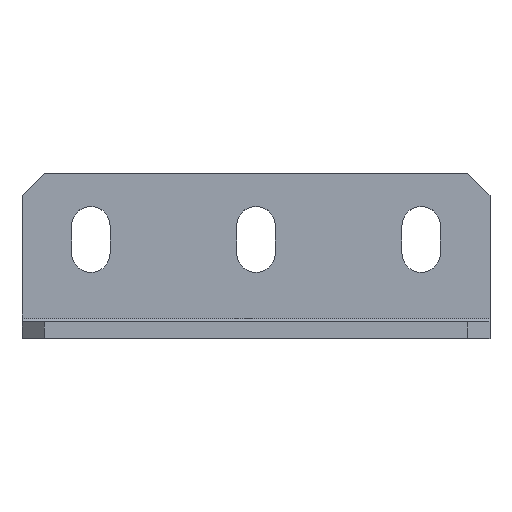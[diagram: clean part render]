
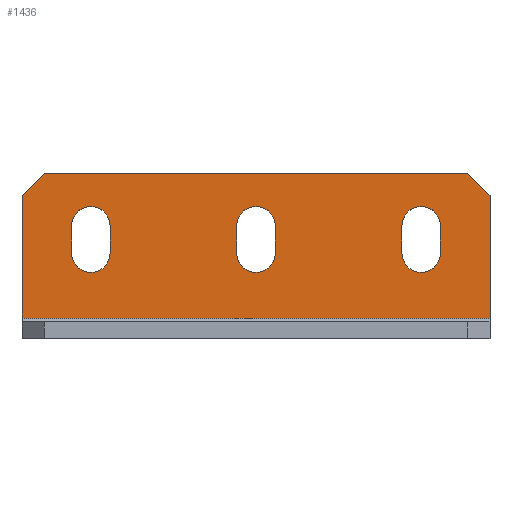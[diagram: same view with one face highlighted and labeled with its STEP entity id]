
A CAD part, top view. The second image highlights one B-rep face of the part: STEP entity #1436.
In plain terms, the highlighted planar face has unit normal (0, 0, 1).
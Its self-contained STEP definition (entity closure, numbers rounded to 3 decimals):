
#1 = DIRECTION ( 'NONE',  ( 0., 0., 1. ) ) ;
#6 = CARTESIAN_POINT ( 'NONE',  ( 30., 15.5, 3. ) ) ;
#15 = AXIS2_PLACEMENT_3D ( 'NONE', #1218, #636, #1162 ) ;
#34 = AXIS2_PLACEMENT_3D ( 'NONE', #6, #1, #465 ) ;
#61 = DIRECTION ( 'NONE',  ( -1., 0., 0. ) ) ;
#63 = ORIENTED_EDGE ( 'NONE', *, *, #758, .T. ) ;
#78 = AXIS2_PLACEMENT_3D ( 'NONE', #1311, #1075, #1095 ) ;
#80 = VERTEX_POINT ( 'NONE', #1374 ) ;
#93 = EDGE_CURVE ( 'NONE', #1184, #173, #1393, .T. ) ;
#97 = VERTEX_POINT ( 'NONE', #1271 ) ;
#101 = FACE_BOUND ( 'NONE', #372, .T. ) ;
#105 = ORIENTED_EDGE ( 'NONE', *, *, #1461, .F. ) ;
#140 = CARTESIAN_POINT ( 'NONE',  ( -42.5, 3.737, 3. ) ) ;
#141 = AXIS2_PLACEMENT_3D ( 'NONE', #657, #592, #644 ) ;
#163 = VERTEX_POINT ( 'NONE', #1292 ) ;
#164 = CARTESIAN_POINT ( 'NONE',  ( 26.5, 15.5, 3. ) ) ;
#173 = VERTEX_POINT ( 'NONE', #1231 ) ;
#178 = ORIENTED_EDGE ( 'NONE', *, *, #727, .F. ) ;
#188 = VERTEX_POINT ( 'NONE', #1175 ) ;
#217 = CARTESIAN_POINT ( 'NONE',  ( -33.5, 15.5, 3. ) ) ;
#221 = VERTEX_POINT ( 'NONE', #551 ) ;
#242 = CARTESIAN_POINT ( 'NONE',  ( 3.5, 15.5, 3. ) ) ;
#260 = EDGE_LOOP ( 'NONE', ( #178, #266, #1364, #844 ) ) ;
#265 = EDGE_CURVE ( 'NONE', #97, #1460, #1171, .T. ) ;
#266 = ORIENTED_EDGE ( 'NONE', *, *, #1506, .F. ) ;
#272 = DIRECTION ( 'NONE',  ( 0., -1., 0. ) ) ;
#273 = VERTEX_POINT ( 'NONE', #164 ) ;
#323 = DIRECTION ( 'NONE',  ( 0., -1., 0. ) ) ;
#333 = VERTEX_POINT ( 'NONE', #717 ) ;
#356 = EDGE_CURVE ( 'NONE', #947, #221, #1155, .T. ) ;
#361 = FACE_BOUND ( 'NONE', #383, .T. ) ;
#372 = EDGE_LOOP ( 'NONE', ( #643, #435, #105, #737 ) ) ;
#380 = CIRCLE ( 'NONE', #15, 3.5 ) ;
#383 = EDGE_LOOP ( 'NONE', ( #903, #474, #1026, #503 ) ) ;
#384 = FACE_BOUND ( 'NONE', #260, .T. ) ;
#388 = CARTESIAN_POINT ( 'NONE',  ( 33.5, 15.5, 3. ) ) ;
#391 = CARTESIAN_POINT ( 'NONE',  ( 26.5, 15.5, 3. ) ) ;
#404 = EDGE_CURVE ( 'NONE', #1399, #919, #1031, .T. ) ;
#409 = EDGE_LOOP ( 'NONE', ( #1498, #63, #1400, #921, #1386, #1427 ) ) ;
#429 = VECTOR ( 'NONE', #1102, 1000. ) ;
#435 = ORIENTED_EDGE ( 'NONE', *, *, #356, .F. ) ;
#465 = DIRECTION ( 'NONE',  ( 1., 0., 0. ) ) ;
#468 = LINE ( 'NONE', #1061, #429 ) ;
#474 = ORIENTED_EDGE ( 'NONE', *, *, #1485, .F. ) ;
#478 = EDGE_CURVE ( 'NONE', #173, #163, #1182, .T. ) ;
#483 = CARTESIAN_POINT ( 'NONE',  ( -3.5, 15.5, 3. ) ) ;
#503 = ORIENTED_EDGE ( 'NONE', *, *, #478, .F. ) ;
#504 = VECTOR ( 'NONE', #61, 1000. ) ;
#517 = EDGE_CURVE ( 'NONE', #221, #97, #1021, .T. ) ;
#523 = VERTEX_POINT ( 'NONE', #1191 ) ;
#524 = CARTESIAN_POINT ( 'NONE',  ( -42.5, 26., 3. ) ) ;
#535 = LINE ( 'NONE', #712, #707 ) ;
#551 = CARTESIAN_POINT ( 'NONE',  ( 3.5, 15.5, 3. ) ) ;
#563 = FACE_OUTER_BOUND ( 'NONE', #409, .T. ) ;
#565 = CIRCLE ( 'NONE', #34, 3.5 ) ;
#569 = DIRECTION ( 'NONE',  ( 0., -1., 0. ) ) ;
#575 = CARTESIAN_POINT ( 'NONE',  ( 42.5, 30., 3. ) ) ;
#592 = DIRECTION ( 'NONE',  ( 0., 0., 1. ) ) ;
#597 = EDGE_CURVE ( 'NONE', #735, #919, #972, .T. ) ;
#605 = LINE ( 'NONE', #1149, #504 ) ;
#636 = DIRECTION ( 'NONE',  ( 0., 0., 1. ) ) ;
#643 = ORIENTED_EDGE ( 'NONE', *, *, #517, .F. ) ;
#644 = DIRECTION ( 'NONE',  ( 1., 0., 0. ) ) ;
#657 = CARTESIAN_POINT ( 'NONE',  ( -30., 20.5, 3. ) ) ;
#666 = VECTOR ( 'NONE', #1296, 1000. ) ;
#693 = VERTEX_POINT ( 'NONE', #938 ) ;
#707 = VECTOR ( 'NONE', #787, 1000. ) ;
#711 = LINE ( 'NONE', #1259, #666 ) ;
#712 = CARTESIAN_POINT ( 'NONE',  ( -3.5, 15.5, 3. ) ) ;
#717 = CARTESIAN_POINT ( 'NONE',  ( -33.5, 20.5, 3. ) ) ;
#727 = EDGE_CURVE ( 'NONE', #188, #523, #914, .T. ) ;
#729 = CARTESIAN_POINT ( 'NONE',  ( -3.5, 20.5, 3. ) ) ;
#731 = CIRCLE ( 'NONE', #141, 3.5 ) ;
#735 = VERTEX_POINT ( 'NONE', #524 ) ;
#737 = ORIENTED_EDGE ( 'NONE', *, *, #265, .F. ) ;
#754 = VECTOR ( 'NONE', #1029, 1000. ) ;
#758 = EDGE_CURVE ( 'NONE', #80, #735, #894, .T. ) ;
#787 = DIRECTION ( 'NONE',  ( 0., -1., 0. ) ) ;
#820 = LINE ( 'NONE', #575, #822 ) ;
#822 = VECTOR ( 'NONE', #569, 1000. ) ;
#832 = EDGE_CURVE ( 'NONE', #163, #273, #860, .T. ) ;
#833 = DIRECTION ( 'NONE',  ( -1., 0., 0. ) ) ;
#844 = ORIENTED_EDGE ( 'NONE', *, *, #1384, .F. ) ;
#845 = VECTOR ( 'NONE', #323, 1000. ) ;
#852 = CARTESIAN_POINT ( 'NONE',  ( 42.5, 3.737, 3. ) ) ;
#860 = LINE ( 'NONE', #391, #845 ) ;
#886 = VECTOR ( 'NONE', #991, 1000. ) ;
#894 = LINE ( 'NONE', #1032, #886 ) ;
#900 = VECTOR ( 'NONE', #1425, 1000. ) ;
#903 = ORIENTED_EDGE ( 'NONE', *, *, #93, .F. ) ;
#914 = LINE ( 'NONE', #994, #900 ) ;
#919 = VERTEX_POINT ( 'NONE', #140 ) ;
#921 = ORIENTED_EDGE ( 'NONE', *, *, #404, .F. ) ;
#938 = CARTESIAN_POINT ( 'NONE',  ( 42.5, 26., 3. ) ) ;
#947 = VERTEX_POINT ( 'NONE', #483 ) ;
#972 = LINE ( 'NONE', #1118, #984 ) ;
#984 = VECTOR ( 'NONE', #272, 1000. ) ;
#991 = DIRECTION ( 'NONE',  ( -0.707, -0.707, 0. ) ) ;
#994 = CARTESIAN_POINT ( 'NONE',  ( -26.5, 15.5, 3. ) ) ;
#1006 = VECTOR ( 'NONE', #1178, 1000. ) ;
#1021 = LINE ( 'NONE', #242, #1006 ) ;
#1026 = ORIENTED_EDGE ( 'NONE', *, *, #832, .F. ) ;
#1029 = DIRECTION ( 'NONE',  ( 0., 1., 0. ) ) ;
#1031 = LINE ( 'NONE', #852, #1153 ) ;
#1032 = CARTESIAN_POINT ( 'NONE',  ( -42.5, 26., 3. ) ) ;
#1061 = CARTESIAN_POINT ( 'NONE',  ( -33.5, 15.5, 3. ) ) ;
#1075 = DIRECTION ( 'NONE',  ( 0., 0., -1. ) ) ;
#1080 = CARTESIAN_POINT ( 'NONE',  ( 42.5, 3.737, 3. ) ) ;
#1095 = DIRECTION ( 'NONE',  ( 0., 1., 0. ) ) ;
#1102 = DIRECTION ( 'NONE',  ( 0., -1., 0. ) ) ;
#1103 = AXIS2_PLACEMENT_3D ( 'NONE', #1145, #1129, #1338 ) ;
#1109 = PLANE ( 'NONE',  #78 ) ;
#1115 = AXIS2_PLACEMENT_3D ( 'NONE', #1483, #1330, #1365 ) ;
#1118 = CARTESIAN_POINT ( 'NONE',  ( -42.5, 30., 3. ) ) ;
#1129 = DIRECTION ( 'NONE',  ( 0., 0., 1. ) ) ;
#1145 = CARTESIAN_POINT ( 'NONE',  ( 30., 20.5, 3. ) ) ;
#1148 = AXIS2_PLACEMENT_3D ( 'NONE', #1287, #1406, #1354 ) ;
#1149 = CARTESIAN_POINT ( 'NONE',  ( 42.5, 30., 3. ) ) ;
#1153 = VECTOR ( 'NONE', #833, 1000. ) ;
#1155 = CIRCLE ( 'NONE', #1115, 3.5 ) ;
#1162 = DIRECTION ( 'NONE',  ( 1., 0., 0. ) ) ;
#1171 = CIRCLE ( 'NONE', #1148, 3.5 ) ;
#1175 = CARTESIAN_POINT ( 'NONE',  ( -26.5, 15.5, 3. ) ) ;
#1178 = DIRECTION ( 'NONE',  ( 0., 1., 0. ) ) ;
#1182 = CIRCLE ( 'NONE', #1103, 3.5 ) ;
#1184 = VERTEX_POINT ( 'NONE', #388 ) ;
#1191 = CARTESIAN_POINT ( 'NONE',  ( -26.5, 20.5, 3. ) ) ;
#1218 = CARTESIAN_POINT ( 'NONE',  ( -30., 15.5, 3. ) ) ;
#1231 = CARTESIAN_POINT ( 'NONE',  ( 33.5, 20.5, 3. ) ) ;
#1259 = CARTESIAN_POINT ( 'NONE',  ( 38.5, 30., 3. ) ) ;
#1271 = CARTESIAN_POINT ( 'NONE',  ( 3.5, 20.5, 3. ) ) ;
#1287 = CARTESIAN_POINT ( 'NONE',  ( 0., 20.5, 3. ) ) ;
#1291 = VERTEX_POINT ( 'NONE', #217 ) ;
#1292 = CARTESIAN_POINT ( 'NONE',  ( 26.5, 20.5, 3. ) ) ;
#1296 = DIRECTION ( 'NONE',  ( -0.707, 0.707, 0. ) ) ;
#1311 = CARTESIAN_POINT ( 'NONE',  ( 42.5, 30., 3. ) ) ;
#1313 = CARTESIAN_POINT ( 'NONE',  ( 38.5, 30., 3. ) ) ;
#1330 = DIRECTION ( 'NONE',  ( 0., 0., 1. ) ) ;
#1338 = DIRECTION ( 'NONE',  ( 1., 0., 0. ) ) ;
#1348 = CARTESIAN_POINT ( 'NONE',  ( 33.5, 15.5, 3. ) ) ;
#1351 = EDGE_CURVE ( 'NONE', #693, #1399, #820, .T. ) ;
#1354 = DIRECTION ( 'NONE',  ( 1., 0., 0. ) ) ;
#1364 = ORIENTED_EDGE ( 'NONE', *, *, #1435, .F. ) ;
#1365 = DIRECTION ( 'NONE',  ( 1., 0., 0. ) ) ;
#1374 = CARTESIAN_POINT ( 'NONE',  ( -38.5, 30., 3. ) ) ;
#1384 = EDGE_CURVE ( 'NONE', #523, #333, #731, .T. ) ;
#1386 = ORIENTED_EDGE ( 'NONE', *, *, #1351, .F. ) ;
#1392 = EDGE_CURVE ( 'NONE', #693, #1432, #711, .T. ) ;
#1393 = LINE ( 'NONE', #1348, #754 ) ;
#1399 = VERTEX_POINT ( 'NONE', #1080 ) ;
#1400 = ORIENTED_EDGE ( 'NONE', *, *, #597, .T. ) ;
#1406 = DIRECTION ( 'NONE',  ( 0., 0., 1. ) ) ;
#1425 = DIRECTION ( 'NONE',  ( 0., 1., 0. ) ) ;
#1427 = ORIENTED_EDGE ( 'NONE', *, *, #1392, .T. ) ;
#1432 = VERTEX_POINT ( 'NONE', #1313 ) ;
#1435 = EDGE_CURVE ( 'NONE', #333, #1291, #468, .T. ) ;
#1436 = ADVANCED_FACE ( 'NONE', ( #361, #101, #384, #563 ), #1109, .F. ) ;
#1460 = VERTEX_POINT ( 'NONE', #729 ) ;
#1461 = EDGE_CURVE ( 'NONE', #1460, #947, #535, .T. ) ;
#1478 = EDGE_CURVE ( 'NONE', #1432, #80, #605, .T. ) ;
#1483 = CARTESIAN_POINT ( 'NONE',  ( 0., 15.5, 3. ) ) ;
#1485 = EDGE_CURVE ( 'NONE', #273, #1184, #565, .T. ) ;
#1498 = ORIENTED_EDGE ( 'NONE', *, *, #1478, .T. ) ;
#1506 = EDGE_CURVE ( 'NONE', #1291, #188, #380, .T. ) ;
